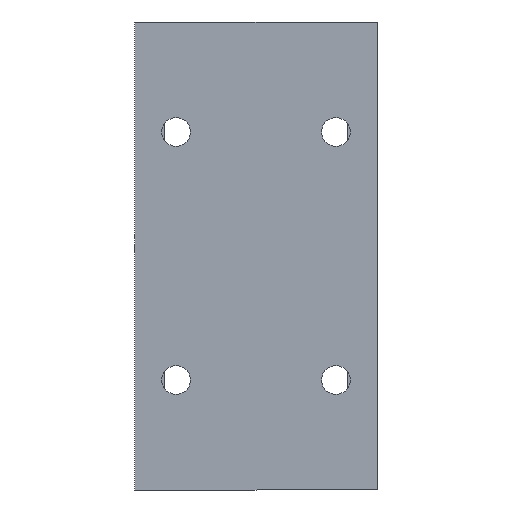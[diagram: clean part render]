
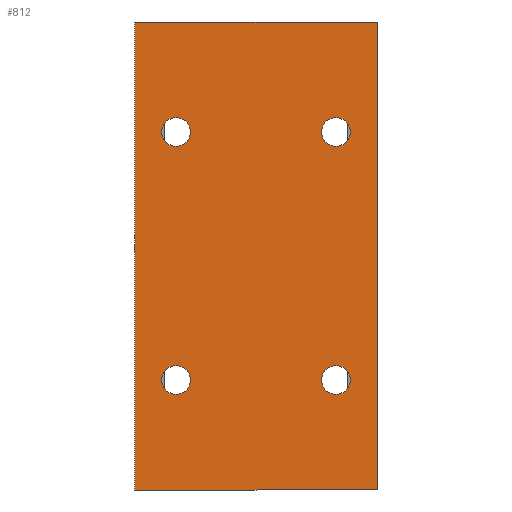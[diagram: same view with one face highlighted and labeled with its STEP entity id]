
A CAD part, front view. The second image highlights one B-rep face of the part: STEP entity #812.
In plain terms, the highlighted planar face has unit normal (0, -1, 0).
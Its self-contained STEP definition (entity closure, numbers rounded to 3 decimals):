
#184 = VERTEX_POINT('',#185);
#185 = CARTESIAN_POINT('',(88.,0.,0.));
#193 = VERTEX_POINT('',#194);
#194 = CARTESIAN_POINT('',(88.,0.,169.8));
#200 = EDGE_CURVE('',#184,#193,#201,.T.);
#201 = LINE('',#202,#203);
#202 = CARTESIAN_POINT('',(88.,0.,0.));
#203 = VECTOR('',#204,1.);
#204 = DIRECTION('',(0.,0.,1.));
#215 = VERTEX_POINT('',#216);
#216 = CARTESIAN_POINT('',(0.,0.,0.));
#224 = EDGE_CURVE('',#184,#215,#225,.T.);
#225 = LINE('',#226,#227);
#226 = CARTESIAN_POINT('',(88.,0.,0.));
#227 = VECTOR('',#228,1.);
#228 = DIRECTION('',(-1.,0.,0.));
#239 = VERTEX_POINT('',#240);
#240 = CARTESIAN_POINT('',(0.,0.,169.8));
#246 = EDGE_CURVE('',#193,#239,#247,.T.);
#247 = LINE('',#248,#249);
#248 = CARTESIAN_POINT('',(88.,0.,169.8));
#249 = VECTOR('',#250,1.);
#250 = DIRECTION('',(-1.,0.,0.));
#450 = EDGE_CURVE('',#215,#239,#451,.T.);
#451 = LINE('',#452,#453);
#452 = CARTESIAN_POINT('',(0.,0.,0.));
#453 = VECTOR('',#454,1.);
#454 = DIRECTION('',(0.,0.,1.));
#812 = ADVANCED_FACE('',(#813,#819,#830,#841,#852),#863,.F.);
#813 = FACE_BOUND('',#814,.F.);
#814 = EDGE_LOOP('',(#815,#816,#817,#818));
#815 = ORIENTED_EDGE('',*,*,#246,.F.);
#816 = ORIENTED_EDGE('',*,*,#200,.F.);
#817 = ORIENTED_EDGE('',*,*,#224,.T.);
#818 = ORIENTED_EDGE('',*,*,#450,.T.);
#819 = FACE_BOUND('',#820,.F.);
#820 = EDGE_LOOP('',(#821));
#821 = ORIENTED_EDGE('',*,*,#822,.F.);
#822 = EDGE_CURVE('',#823,#823,#825,.T.);
#823 = VERTEX_POINT('',#824);
#824 = CARTESIAN_POINT('',(67.8,0.,39.9));
#825 = CIRCLE('',#826,5.2);
#826 = AXIS2_PLACEMENT_3D('',#827,#828,#829);
#827 = CARTESIAN_POINT('',(73.,0.,39.9));
#828 = DIRECTION('',(0.,1.,0.));
#829 = DIRECTION('',(-1.,0.,0.));
#830 = FACE_BOUND('',#831,.F.);
#831 = EDGE_LOOP('',(#832));
#832 = ORIENTED_EDGE('',*,*,#833,.F.);
#833 = EDGE_CURVE('',#834,#834,#836,.T.);
#834 = VERTEX_POINT('',#835);
#835 = CARTESIAN_POINT('',(9.8,0.,39.9));
#836 = CIRCLE('',#837,5.2);
#837 = AXIS2_PLACEMENT_3D('',#838,#839,#840);
#838 = CARTESIAN_POINT('',(15.,0.,39.9));
#839 = DIRECTION('',(0.,1.,0.));
#840 = DIRECTION('',(-1.,0.,0.));
#841 = FACE_BOUND('',#842,.F.);
#842 = EDGE_LOOP('',(#843));
#843 = ORIENTED_EDGE('',*,*,#844,.F.);
#844 = EDGE_CURVE('',#845,#845,#847,.T.);
#845 = VERTEX_POINT('',#846);
#846 = CARTESIAN_POINT('',(67.8,0.,129.9));
#847 = CIRCLE('',#848,5.2);
#848 = AXIS2_PLACEMENT_3D('',#849,#850,#851);
#849 = CARTESIAN_POINT('',(73.,0.,129.9));
#850 = DIRECTION('',(0.,1.,0.));
#851 = DIRECTION('',(-1.,0.,0.));
#852 = FACE_BOUND('',#853,.F.);
#853 = EDGE_LOOP('',(#854));
#854 = ORIENTED_EDGE('',*,*,#855,.F.);
#855 = EDGE_CURVE('',#856,#856,#858,.T.);
#856 = VERTEX_POINT('',#857);
#857 = CARTESIAN_POINT('',(9.8,0.,129.9));
#858 = CIRCLE('',#859,5.2);
#859 = AXIS2_PLACEMENT_3D('',#860,#861,#862);
#860 = CARTESIAN_POINT('',(15.,0.,129.9));
#861 = DIRECTION('',(0.,1.,0.));
#862 = DIRECTION('',(-1.,0.,0.));
#863 = PLANE('',#864);
#864 = AXIS2_PLACEMENT_3D('',#865,#866,#867);
#865 = CARTESIAN_POINT('',(88.,0.,0.));
#866 = DIRECTION('',(0.,1.,0.));
#867 = DIRECTION('',(-1.,0.,0.));
